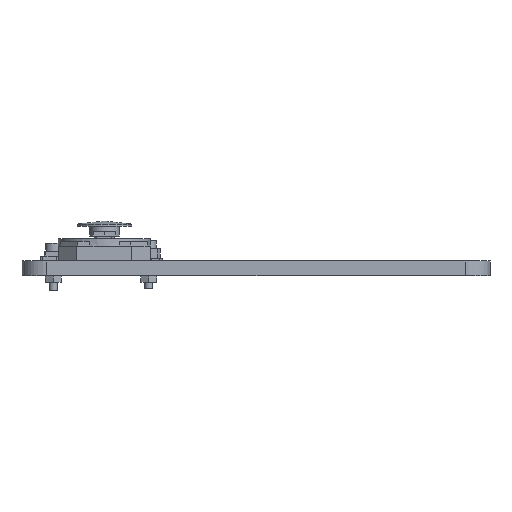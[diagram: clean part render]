
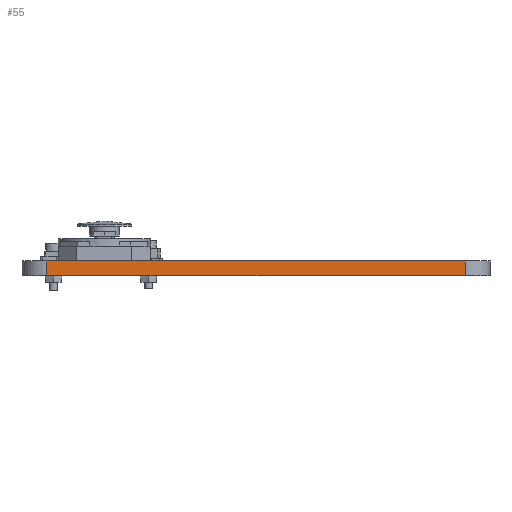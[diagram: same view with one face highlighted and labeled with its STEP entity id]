
A CAD part, left-side view. The second image highlights one B-rep face of the part: STEP entity #55.
In plain terms, the highlighted planar face has unit normal (-1, 0, 0).
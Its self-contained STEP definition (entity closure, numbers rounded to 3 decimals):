
#55 = ADVANCED_FACE('',(#56),#70,.F.);
#56 = FACE_BOUND('',#57,.F.);
#57 = EDGE_LOOP('',(#58,#93,#121,#149));
#58 = ORIENTED_EDGE('',*,*,#59,.F.);
#59 = EDGE_CURVE('',#60,#62,#64,.T.);
#60 = VERTEX_POINT('',#61);
#61 = CARTESIAN_POINT('',(-47.,-42.,25.));
#62 = VERTEX_POINT('',#63);
#63 = CARTESIAN_POINT('',(-47.,42.,25.));
#64 = SURFACE_CURVE('',#65,(#69,#81),.PCURVE_S1.);
#65 = LINE('',#66,#67);
#66 = CARTESIAN_POINT('',(-47.,-47.,25.));
#67 = VECTOR('',#68,1.);
#68 = DIRECTION('',(0.,1.,0.));
#69 = PCURVE('',#70,#75);
#70 = PLANE('',#71);
#71 = AXIS2_PLACEMENT_3D('',#72,#73,#74);
#72 = CARTESIAN_POINT('',(-47.,-47.,22.));
#73 = DIRECTION('',(1.,0.,0.));
#74 = DIRECTION('',(0.,0.,1.));
#75 = DEFINITIONAL_REPRESENTATION('',(#76),#80);
#76 = LINE('',#77,#78);
#77 = CARTESIAN_POINT('',(3.,0.));
#78 = VECTOR('',#79,1.);
#79 = DIRECTION('',(0.,-1.));
#80 = ( GEOMETRIC_REPRESENTATION_CONTEXT(2) 
PARAMETRIC_REPRESENTATION_CONTEXT() REPRESENTATION_CONTEXT('2D SPACE',''
  ) );
#81 = PCURVE('',#82,#87);
#82 = PLANE('',#83);
#83 = AXIS2_PLACEMENT_3D('',#84,#85,#86);
#84 = CARTESIAN_POINT('',(-47.,-47.,25.));
#85 = DIRECTION('',(0.,0.,1.));
#86 = DIRECTION('',(1.,0.,-0.));
#87 = DEFINITIONAL_REPRESENTATION('',(#88),#92);
#88 = LINE('',#89,#90);
#89 = CARTESIAN_POINT('',(0.,0.));
#90 = VECTOR('',#91,1.);
#91 = DIRECTION('',(0.,1.));
#92 = ( GEOMETRIC_REPRESENTATION_CONTEXT(2) 
PARAMETRIC_REPRESENTATION_CONTEXT() REPRESENTATION_CONTEXT('2D SPACE',''
  ) );
#93 = ORIENTED_EDGE('',*,*,#94,.F.);
#94 = EDGE_CURVE('',#95,#60,#97,.T.);
#95 = VERTEX_POINT('',#96);
#96 = CARTESIAN_POINT('',(-47.,-42.,22.));
#97 = SURFACE_CURVE('',#98,(#102,#109),.PCURVE_S1.);
#98 = LINE('',#99,#100);
#99 = CARTESIAN_POINT('',(-47.,-42.,22.));
#100 = VECTOR('',#101,1.);
#101 = DIRECTION('',(0.,0.,1.));
#102 = PCURVE('',#70,#103);
#103 = DEFINITIONAL_REPRESENTATION('',(#104),#108);
#104 = LINE('',#105,#106);
#105 = CARTESIAN_POINT('',(0.,-5.));
#106 = VECTOR('',#107,1.);
#107 = DIRECTION('',(1.,0.));
#108 = ( GEOMETRIC_REPRESENTATION_CONTEXT(2) 
PARAMETRIC_REPRESENTATION_CONTEXT() REPRESENTATION_CONTEXT('2D SPACE',''
  ) );
#109 = PCURVE('',#110,#115);
#110 = CYLINDRICAL_SURFACE('',#111,5.);
#111 = AXIS2_PLACEMENT_3D('',#112,#113,#114);
#112 = CARTESIAN_POINT('',(-42.,-42.,22.));
#113 = DIRECTION('',(0.,0.,1.));
#114 = DIRECTION('',(-1.,-0.,0.));
#115 = DEFINITIONAL_REPRESENTATION('',(#116),#120);
#116 = LINE('',#117,#118);
#117 = CARTESIAN_POINT('',(0.,0.));
#118 = VECTOR('',#119,1.);
#119 = DIRECTION('',(0.,1.));
#120 = ( GEOMETRIC_REPRESENTATION_CONTEXT(2) 
PARAMETRIC_REPRESENTATION_CONTEXT() REPRESENTATION_CONTEXT('2D SPACE',''
  ) );
#121 = ORIENTED_EDGE('',*,*,#122,.T.);
#122 = EDGE_CURVE('',#95,#123,#125,.T.);
#123 = VERTEX_POINT('',#124);
#124 = CARTESIAN_POINT('',(-47.,42.,22.));
#125 = SURFACE_CURVE('',#126,(#130,#137),.PCURVE_S1.);
#126 = LINE('',#127,#128);
#127 = CARTESIAN_POINT('',(-47.,-47.,22.));
#128 = VECTOR('',#129,1.);
#129 = DIRECTION('',(0.,1.,0.));
#130 = PCURVE('',#70,#131);
#131 = DEFINITIONAL_REPRESENTATION('',(#132),#136);
#132 = LINE('',#133,#134);
#133 = CARTESIAN_POINT('',(0.,0.));
#134 = VECTOR('',#135,1.);
#135 = DIRECTION('',(0.,-1.));
#136 = ( GEOMETRIC_REPRESENTATION_CONTEXT(2) 
PARAMETRIC_REPRESENTATION_CONTEXT() REPRESENTATION_CONTEXT('2D SPACE',''
  ) );
#137 = PCURVE('',#138,#143);
#138 = PLANE('',#139);
#139 = AXIS2_PLACEMENT_3D('',#140,#141,#142);
#140 = CARTESIAN_POINT('',(-47.,-47.,22.));
#141 = DIRECTION('',(0.,0.,1.));
#142 = DIRECTION('',(1.,0.,-0.));
#143 = DEFINITIONAL_REPRESENTATION('',(#144),#148);
#144 = LINE('',#145,#146);
#145 = CARTESIAN_POINT('',(0.,0.));
#146 = VECTOR('',#147,1.);
#147 = DIRECTION('',(0.,1.));
#148 = ( GEOMETRIC_REPRESENTATION_CONTEXT(2) 
PARAMETRIC_REPRESENTATION_CONTEXT() REPRESENTATION_CONTEXT('2D SPACE',''
  ) );
#149 = ORIENTED_EDGE('',*,*,#150,.T.);
#150 = EDGE_CURVE('',#123,#62,#151,.T.);
#151 = SURFACE_CURVE('',#152,(#156,#163),.PCURVE_S1.);
#152 = LINE('',#153,#154);
#153 = CARTESIAN_POINT('',(-47.,42.,22.));
#154 = VECTOR('',#155,1.);
#155 = DIRECTION('',(0.,0.,1.));
#156 = PCURVE('',#70,#157);
#157 = DEFINITIONAL_REPRESENTATION('',(#158),#162);
#158 = LINE('',#159,#160);
#159 = CARTESIAN_POINT('',(0.,-89.));
#160 = VECTOR('',#161,1.);
#161 = DIRECTION('',(1.,0.));
#162 = ( GEOMETRIC_REPRESENTATION_CONTEXT(2) 
PARAMETRIC_REPRESENTATION_CONTEXT() REPRESENTATION_CONTEXT('2D SPACE',''
  ) );
#163 = PCURVE('',#164,#169);
#164 = CYLINDRICAL_SURFACE('',#165,5.);
#165 = AXIS2_PLACEMENT_3D('',#166,#167,#168);
#166 = CARTESIAN_POINT('',(-42.,42.,22.));
#167 = DIRECTION('',(0.,0.,1.));
#168 = DIRECTION('',(-1.,-0.,0.));
#169 = DEFINITIONAL_REPRESENTATION('',(#170),#174);
#170 = LINE('',#171,#172);
#171 = CARTESIAN_POINT('',(6.283,0.));
#172 = VECTOR('',#173,1.);
#173 = DIRECTION('',(-0.,1.));
#174 = ( GEOMETRIC_REPRESENTATION_CONTEXT(2) 
PARAMETRIC_REPRESENTATION_CONTEXT() REPRESENTATION_CONTEXT('2D SPACE',''
  ) );
